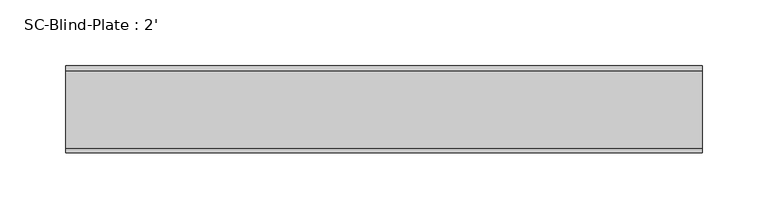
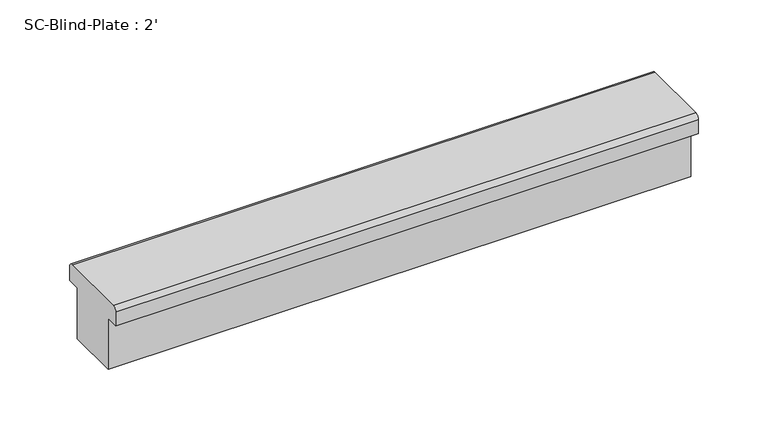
"""IFC4 building model written with IfcOpenShell, lengths in millimetres: proxy geometry, SC-Blind-Plate : 2'."""

from ifc_helpers import new_model, si_unit, point, frame, frame_2d, origin, place, context, project, spatial, polyline, circle_curve, trimmed, segment, composite_curve, outline, extrude, source, transform, mapped, element, save


def sc_blind_plate_2_bbbffddd(model_context):
    return source(origin(), model_context, "Body", "SweptSolid", [
        extrude(outline(composite_curve([segment(polyline([(22.225, 9.4401471), (-22.225, 9.4401471), (-22.225, 53.975), (-33.02, 53.975), (-33.02, 66.219198)]), True, "CONTINUOUS"), segment(trimmed(circle_curve(frame_2d((-29.3990509, 66.219198)), 3.6209491), [point((-33.02, 66.219198))], [point((-29.3990509, 69.8401471))], False, "CARTESIAN"), True, "CONTINUOUS"), segment(polyline([(-29.3990509, 69.8401471), (29.3990509, 69.8401471)]), True, "CONTINUOUS"), segment(trimmed(circle_curve(frame_2d((29.3990509, 66.219198)), 3.6209491), [point((29.3990509, 69.8401471))], [point((33.02, 66.219198))], False, "CARTESIAN"), True, "CONTINUOUS"), segment(polyline([(33.02, 66.219198), (33.02, 53.975), (22.225, 53.975), (22.225, 9.4401471)]), True, "CONTINUOUS")], self_intersect=False)), frame((-241.3, 0.0, 0.0), z_axis=(1.0, 0.0, 0.0), x_axis=(0.0, 1.0, 0.0)), (0.0, 0.0, 1.0), 482.6),
    ])


if __name__ == "__main__":
    model = new_model("IFC4")
    model_context = context("Model", 3, world=origin())
    ifc_project = project(units=[si_unit("LENGTHUNIT", "METRE", prefix="MILLI")], contexts=[model_context])
    site = spatial("IfcSite", under=ifc_project)
    building = spatial("IfcBuilding", under=site)
    placement = place(None, origin())
    sc_blind_plate_2_shape = sc_blind_plate_2_bbbffddd(model_context)
    element("IfcBuildingElementProxy", 1, Name="SC-Blind-Plate : 2'", ObjectType="SC-Blind-Plate : 2'", at=placement, inside=building, context=model_context, shape_type="MappedRepresentation", body=[
        mapped(sc_blind_plate_2_shape, transform((0.0, 0.0, 0.0), x_axis=(1.0, 0.0, 0.0), y_axis=(0.0, 1.0, 0.0), z_axis=(0.0, 0.0, 1.0))),
    ])
    save(model, "model.ifc")
